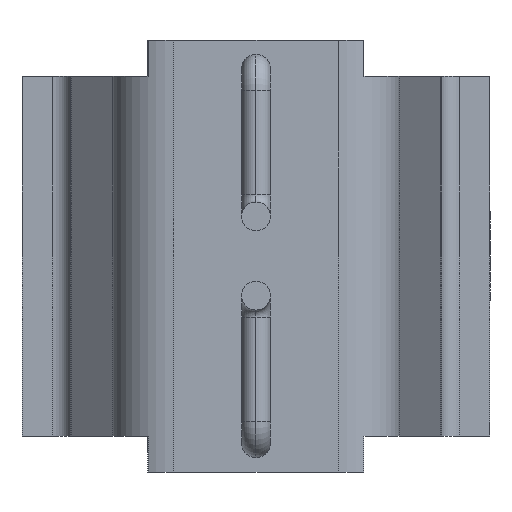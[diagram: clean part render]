
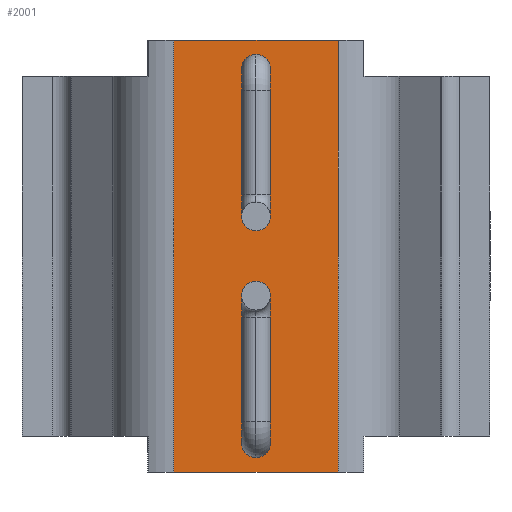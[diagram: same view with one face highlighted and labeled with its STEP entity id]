
A CAD part, left-side view. The second image highlights one B-rep face of the part: STEP entity #2001.
In plain terms, the highlighted planar face has unit normal (-1, 0, 0).
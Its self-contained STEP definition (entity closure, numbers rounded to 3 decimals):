
#11 = DIRECTION ( 'NONE',  ( 0., 0., 1. ) ) ;
#20 = EDGE_LOOP ( 'NONE', ( #1274, #1005 ) ) ;
#29 = EDGE_LOOP ( 'NONE', ( #458, #1730 ) ) ;
#60 = CIRCLE ( 'NONE', #1261, 0.4 ) ;
#161 = CARTESIAN_POINT ( 'NONE',  ( -24.35, 0., -5.2 ) ) ;
#169 = EDGE_CURVE ( 'NONE', #1025, #289, #1535, .T. ) ;
#182 = EDGE_CURVE ( 'NONE', #2059, #1637, #1479, .T. ) ;
#270 = VERTEX_POINT ( 'NONE', #741 ) ;
#281 = AXIS2_PLACEMENT_3D ( 'NONE', #1141, #1967, #1811 ) ;
#289 = VERTEX_POINT ( 'NONE', #1056 ) ;
#351 = DIRECTION ( 'NONE',  ( 0., 0., 1. ) ) ;
#410 = CARTESIAN_POINT ( 'NONE',  ( -24.35, 2.282, 5. ) ) ;
#414 = CARTESIAN_POINT ( 'NONE',  ( -24.35, 0., -5.2 ) ) ;
#457 = DIRECTION ( 'NONE',  ( -1., 0., 0. ) ) ;
#458 = ORIENTED_EDGE ( 'NONE', *, *, #182, .F. ) ;
#479 = DIRECTION ( 'NONE',  ( 0., 0., -1. ) ) ;
#573 = DIRECTION ( 'NONE',  ( 0., 0., 1. ) ) ;
#624 = ORIENTED_EDGE ( 'NONE', *, *, #1159, .T. ) ;
#656 = AXIS2_PLACEMENT_3D ( 'NONE', #161, #1289, #11 ) ;
#664 = EDGE_CURVE ( 'NONE', #270, #1722, #1353, .T. ) ;
#673 = CARTESIAN_POINT ( 'NONE',  ( -24.35, -2.282, 5. ) ) ;
#694 = DIRECTION ( 'NONE',  ( 0., -1., 0. ) ) ;
#741 = CARTESIAN_POINT ( 'NONE',  ( -24.35, 0., 5.6 ) ) ;
#743 = AXIS2_PLACEMENT_3D ( 'NONE', #1586, #1439, #479 ) ;
#774 = EDGE_CURVE ( 'NONE', #1722, #270, #1866, .T. ) ;
#881 = CARTESIAN_POINT ( 'NONE',  ( -24.35, 0., -5.6 ) ) ;
#883 = ORIENTED_EDGE ( 'NONE', *, *, #1739, .T. ) ;
#906 = VECTOR ( 'NONE', #351, 1000. ) ;
#926 = DIRECTION ( 'NONE',  ( 0., -1., 0. ) ) ;
#941 = DIRECTION ( 'NONE',  ( 0., 0., -1. ) ) ;
#957 = AXIS2_PLACEMENT_3D ( 'NONE', #1604, #457, #941 ) ;
#960 = LINE ( 'NONE', #673, #906 ) ;
#970 = ORIENTED_EDGE ( 'NONE', *, *, #1481, .T. ) ;
#981 = CARTESIAN_POINT ( 'NONE',  ( -24.35, 0., -4.8 ) ) ;
#1005 = ORIENTED_EDGE ( 'NONE', *, *, #774, .F. ) ;
#1024 = CARTESIAN_POINT ( 'NONE',  ( -24.35, 2.282, 6. ) ) ;
#1025 = VERTEX_POINT ( 'NONE', #1024 ) ;
#1032 = CARTESIAN_POINT ( 'NONE',  ( -24.35, -2.282, -6. ) ) ;
#1050 = VERTEX_POINT ( 'NONE', #1336 ) ;
#1056 = CARTESIAN_POINT ( 'NONE',  ( -24.35, -2.282, 6. ) ) ;
#1141 = CARTESIAN_POINT ( 'NONE',  ( -24.35, 6.5, 5. ) ) ;
#1159 = EDGE_CURVE ( 'NONE', #1025, #1050, #1689, .T. ) ;
#1261 = AXIS2_PLACEMENT_3D ( 'NONE', #414, #1544, #573 ) ;
#1273 = FACE_BOUND ( 'NONE', #29, .T. ) ;
#1274 = ORIENTED_EDGE ( 'NONE', *, *, #664, .F. ) ;
#1289 = DIRECTION ( 'NONE',  ( -1., 0., 0. ) ) ;
#1310 = EDGE_LOOP ( 'NONE', ( #624, #883, #970, #1816 ) ) ;
#1336 = CARTESIAN_POINT ( 'NONE',  ( -24.35, 2.282, -6. ) ) ;
#1346 = VECTOR ( 'NONE', #926, 1000. ) ;
#1353 = CIRCLE ( 'NONE', #957, 0.4 ) ;
#1428 = VECTOR ( 'NONE', #694, 1000. ) ;
#1439 = DIRECTION ( 'NONE',  ( -1., 0., 0. ) ) ;
#1479 = CIRCLE ( 'NONE', #656, 0.4 ) ;
#1481 = EDGE_CURVE ( 'NONE', #1645, #289, #960, .T. ) ;
#1491 = PLANE ( 'NONE',  #281 ) ;
#1535 = LINE ( 'NONE', #1559, #1428 ) ;
#1544 = DIRECTION ( 'NONE',  ( -1., 0., 0. ) ) ;
#1557 = CARTESIAN_POINT ( 'NONE',  ( -24.35, 0., 4.8 ) ) ;
#1559 = CARTESIAN_POINT ( 'NONE',  ( -24.35, 2.282, 6. ) ) ;
#1562 = FACE_BOUND ( 'NONE', #20, .T. ) ;
#1577 = EDGE_CURVE ( 'NONE', #1637, #2059, #60, .T. ) ;
#1586 = CARTESIAN_POINT ( 'NONE',  ( -24.35, 0., 5.2 ) ) ;
#1604 = CARTESIAN_POINT ( 'NONE',  ( -24.35, 0., 5.2 ) ) ;
#1637 = VERTEX_POINT ( 'NONE', #881 ) ;
#1645 = VERTEX_POINT ( 'NONE', #1032 ) ;
#1656 = LINE ( 'NONE', #1752, #1346 ) ;
#1661 = VECTOR ( 'NONE', #1861, 1000. ) ;
#1689 = LINE ( 'NONE', #410, #1661 ) ;
#1722 = VERTEX_POINT ( 'NONE', #1557 ) ;
#1730 = ORIENTED_EDGE ( 'NONE', *, *, #1577, .F. ) ;
#1739 = EDGE_CURVE ( 'NONE', #1050, #1645, #1656, .T. ) ;
#1751 = FACE_OUTER_BOUND ( 'NONE', #1310, .T. ) ;
#1752 = CARTESIAN_POINT ( 'NONE',  ( -24.35, 2.282, -6. ) ) ;
#1811 = DIRECTION ( 'NONE',  ( 0., 0., -1. ) ) ;
#1816 = ORIENTED_EDGE ( 'NONE', *, *, #169, .F. ) ;
#1861 = DIRECTION ( 'NONE',  ( 0., 0., -1. ) ) ;
#1866 = CIRCLE ( 'NONE', #743, 0.4 ) ;
#1967 = DIRECTION ( 'NONE',  ( 1., 0., 0. ) ) ;
#2001 = ADVANCED_FACE ( 'NONE', ( #1562, #1273, #1751 ), #1491, .F. ) ;
#2059 = VERTEX_POINT ( 'NONE', #981 ) ;
